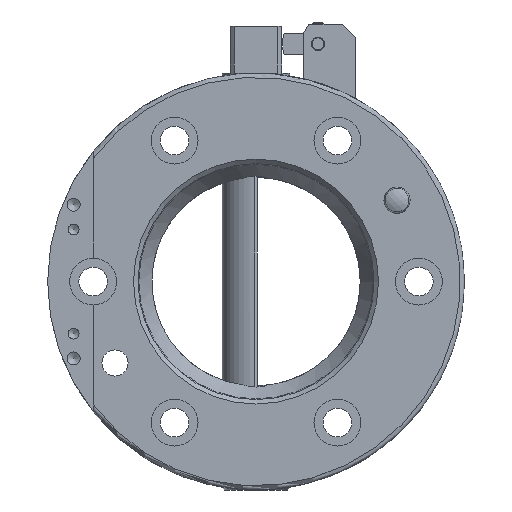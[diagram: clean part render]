
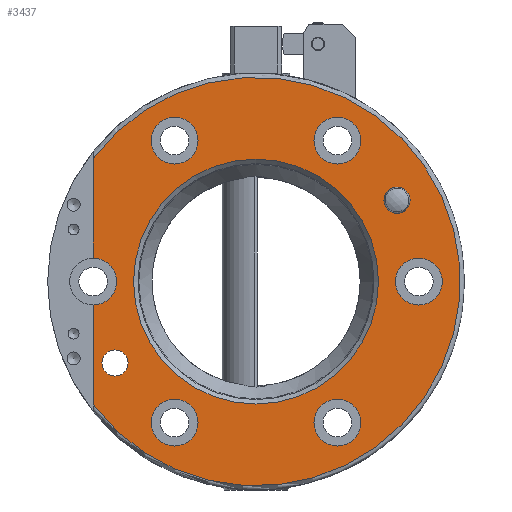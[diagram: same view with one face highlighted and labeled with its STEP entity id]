
A CAD part, left-side view. The second image highlights one B-rep face of the part: STEP entity #3437.
In plain terms, the highlighted planar face has unit normal (-1, 0, 0).
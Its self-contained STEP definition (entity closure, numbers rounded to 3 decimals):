
#69=FACE_BOUND('',#505,.T.);
#70=FACE_BOUND('',#506,.T.);
#71=FACE_BOUND('',#507,.T.);
#72=FACE_BOUND('',#508,.T.);
#73=FACE_BOUND('',#509,.T.);
#74=FACE_BOUND('',#510,.T.);
#75=FACE_BOUND('',#511,.T.);
#76=FACE_BOUND('',#512,.T.);
#163=PLANE('',#3668);
#316=FACE_OUTER_BOUND('',#504,.T.);
#504=EDGE_LOOP('',(#2280,#2281,#2282,#2283));
#505=EDGE_LOOP('',(#2284,#2285));
#506=EDGE_LOOP('',(#2286,#2287));
#507=EDGE_LOOP('',(#2288,#2289));
#508=EDGE_LOOP('',(#2290,#2291));
#509=EDGE_LOOP('',(#2292,#2293));
#510=EDGE_LOOP('',(#2294));
#511=EDGE_LOOP('',(#2295));
#512=EDGE_LOOP('',(#2296));
#737=LINE('',#5085,#956);
#743=LINE('',#5119,#962);
#956=VECTOR('',#4089,10.);
#962=VECTOR('',#4097,10.);
#1184=CIRCLE('',#3669,78.4);
#1185=CIRCLE('',#3670,9.);
#1186=CIRCLE('',#3671,9.);
#1187=CIRCLE('',#3672,9.);
#1188=CIRCLE('',#3673,9.);
#1189=CIRCLE('',#3674,9.);
#1190=CIRCLE('',#3675,9.);
#1191=CIRCLE('',#3676,9.);
#1192=CIRCLE('',#3677,9.);
#1193=CIRCLE('',#3678,9.);
#1194=CIRCLE('',#3679,9.);
#1195=CIRCLE('',#3680,9.);
#1196=CIRCLE('',#3681,5.);
#1197=CIRCLE('',#3682,5.);
#1198=CIRCLE('',#3683,47.);
#1395=VERTEX_POINT('',#5081);
#1397=VERTEX_POINT('',#5084);
#1401=VERTEX_POINT('',#5102);
#1404=VERTEX_POINT('',#5108);
#1405=VERTEX_POINT('',#5126);
#1406=VERTEX_POINT('',#5127);
#1407=VERTEX_POINT('',#5130);
#1408=VERTEX_POINT('',#5131);
#1409=VERTEX_POINT('',#5134);
#1410=VERTEX_POINT('',#5135);
#1411=VERTEX_POINT('',#5138);
#1412=VERTEX_POINT('',#5139);
#1413=VERTEX_POINT('',#5142);
#1414=VERTEX_POINT('',#5143);
#1415=VERTEX_POINT('',#5146);
#1416=VERTEX_POINT('',#5148);
#1417=VERTEX_POINT('',#5150);
#1748=EDGE_CURVE('',#1397,#1395,#737,.T.);
#1756=EDGE_CURVE('',#1401,#1404,#743,.T.);
#1759=EDGE_CURVE('',#1397,#1404,#1184,.T.);
#1760=EDGE_CURVE('',#1395,#1401,#1185,.T.);
#1761=EDGE_CURVE('',#1405,#1406,#1186,.T.);
#1762=EDGE_CURVE('',#1406,#1405,#1187,.T.);
#1763=EDGE_CURVE('',#1407,#1408,#1188,.T.);
#1764=EDGE_CURVE('',#1408,#1407,#1189,.T.);
#1765=EDGE_CURVE('',#1409,#1410,#1190,.T.);
#1766=EDGE_CURVE('',#1410,#1409,#1191,.T.);
#1767=EDGE_CURVE('',#1411,#1412,#1192,.T.);
#1768=EDGE_CURVE('',#1412,#1411,#1193,.T.);
#1769=EDGE_CURVE('',#1413,#1414,#1194,.T.);
#1770=EDGE_CURVE('',#1414,#1413,#1195,.T.);
#1771=EDGE_CURVE('',#1415,#1415,#1196,.T.);
#1772=EDGE_CURVE('',#1416,#1416,#1197,.T.);
#1773=EDGE_CURVE('',#1417,#1417,#1198,.T.);
#2280=ORIENTED_EDGE('',*,*,#1756,.T.);
#2281=ORIENTED_EDGE('',*,*,#1759,.F.);
#2282=ORIENTED_EDGE('',*,*,#1748,.T.);
#2283=ORIENTED_EDGE('',*,*,#1760,.T.);
#2284=ORIENTED_EDGE('',*,*,#1761,.T.);
#2285=ORIENTED_EDGE('',*,*,#1762,.T.);
#2286=ORIENTED_EDGE('',*,*,#1763,.T.);
#2287=ORIENTED_EDGE('',*,*,#1764,.T.);
#2288=ORIENTED_EDGE('',*,*,#1765,.T.);
#2289=ORIENTED_EDGE('',*,*,#1766,.T.);
#2290=ORIENTED_EDGE('',*,*,#1767,.T.);
#2291=ORIENTED_EDGE('',*,*,#1768,.T.);
#2292=ORIENTED_EDGE('',*,*,#1769,.T.);
#2293=ORIENTED_EDGE('',*,*,#1770,.T.);
#2294=ORIENTED_EDGE('',*,*,#1771,.T.);
#2295=ORIENTED_EDGE('',*,*,#1772,.T.);
#2296=ORIENTED_EDGE('',*,*,#1773,.F.);
#3437=ADVANCED_FACE('',(#316,#69,#70,#71,#72,#73,#74,#75,#76),#163,.T.);
#3668=AXIS2_PLACEMENT_3D('',#5123,#4104,#4105);
#3669=AXIS2_PLACEMENT_3D('',#5124,#4106,#4107);
#3670=AXIS2_PLACEMENT_3D('',#5125,#4108,#4109);
#3671=AXIS2_PLACEMENT_3D('',#5128,#4110,#4111);
#3672=AXIS2_PLACEMENT_3D('',#5129,#4112,#4113);
#3673=AXIS2_PLACEMENT_3D('',#5132,#4114,#4115);
#3674=AXIS2_PLACEMENT_3D('',#5133,#4116,#4117);
#3675=AXIS2_PLACEMENT_3D('',#5136,#4118,#4119);
#3676=AXIS2_PLACEMENT_3D('',#5137,#4120,#4121);
#3677=AXIS2_PLACEMENT_3D('',#5140,#4122,#4123);
#3678=AXIS2_PLACEMENT_3D('',#5141,#4124,#4125);
#3679=AXIS2_PLACEMENT_3D('',#5144,#4126,#4127);
#3680=AXIS2_PLACEMENT_3D('',#5145,#4128,#4129);
#3681=AXIS2_PLACEMENT_3D('',#5147,#4130,#4131);
#3682=AXIS2_PLACEMENT_3D('',#5149,#4132,#4133);
#3683=AXIS2_PLACEMENT_3D('',#5151,#4134,#4135);
#4089=DIRECTION('',(0.,0.,-1.));
#4097=DIRECTION('',(0.,0.,-1.));
#4104=DIRECTION('center_axis',(-1.,0.,0.));
#4105=DIRECTION('ref_axis',(0.,0.,1.));
#4106=DIRECTION('center_axis',(1.,0.,0.));
#4107=DIRECTION('ref_axis',(0.,-1.,0.));
#4108=DIRECTION('center_axis',(1.,0.,0.));
#4109=DIRECTION('ref_axis',(0.,0.,1.));
#4110=DIRECTION('center_axis',(1.,0.,0.));
#4111=DIRECTION('ref_axis',(0.,0.,1.));
#4112=DIRECTION('center_axis',(1.,0.,0.));
#4113=DIRECTION('ref_axis',(0.,0.,1.));
#4114=DIRECTION('center_axis',(1.,0.,0.));
#4115=DIRECTION('ref_axis',(0.,0.,1.));
#4116=DIRECTION('center_axis',(1.,0.,0.));
#4117=DIRECTION('ref_axis',(0.,0.,1.));
#4118=DIRECTION('center_axis',(1.,0.,0.));
#4119=DIRECTION('ref_axis',(0.,0.,1.));
#4120=DIRECTION('center_axis',(1.,0.,0.));
#4121=DIRECTION('ref_axis',(0.,0.,1.));
#4122=DIRECTION('center_axis',(1.,0.,0.));
#4123=DIRECTION('ref_axis',(0.,0.,1.));
#4124=DIRECTION('center_axis',(1.,0.,0.));
#4125=DIRECTION('ref_axis',(0.,0.,1.));
#4126=DIRECTION('center_axis',(1.,0.,0.));
#4127=DIRECTION('ref_axis',(0.,0.,1.));
#4128=DIRECTION('center_axis',(1.,0.,0.));
#4129=DIRECTION('ref_axis',(0.,0.,1.));
#4130=DIRECTION('center_axis',(1.,0.,0.));
#4131=DIRECTION('ref_axis',(0.,0.,1.));
#4132=DIRECTION('center_axis',(1.,0.,0.));
#4133=DIRECTION('ref_axis',(0.,0.,1.));
#4134=DIRECTION('center_axis',(-1.,0.,0.));
#4135=DIRECTION('ref_axis',(0.,-1.,0.));
#5081=CARTESIAN_POINT('',(0.,62.5,9.));
#5084=CARTESIAN_POINT('',(0.,62.5,47.332));
#5085=CARTESIAN_POINT('',(0.,62.5,-24.969));
#5102=CARTESIAN_POINT('',(0.,62.5,-9.));
#5108=CARTESIAN_POINT('',(0.,62.5,-47.332));
#5119=CARTESIAN_POINT('',(0.,62.5,-24.969));
#5123=CARTESIAN_POINT('Origin',(0.,62.5,0.));
#5124=CARTESIAN_POINT('Origin',(0.,0.,0.));
#5125=CARTESIAN_POINT('Origin',(0.,62.5,0.));
#5126=CARTESIAN_POINT('',(0.,31.25,63.127));
#5127=CARTESIAN_POINT('',(0.,31.25,45.127));
#5128=CARTESIAN_POINT('Origin',(0.,31.25,54.127));
#5129=CARTESIAN_POINT('Origin',(0.,31.25,54.127));
#5130=CARTESIAN_POINT('',(0.,-62.5,9.));
#5131=CARTESIAN_POINT('',(0.,-62.5,-9.));
#5132=CARTESIAN_POINT('Origin',(0.,-62.5,0.));
#5133=CARTESIAN_POINT('Origin',(0.,-62.5,0.));
#5134=CARTESIAN_POINT('',(0.,31.25,-45.127));
#5135=CARTESIAN_POINT('',(0.,31.25,-63.127));
#5136=CARTESIAN_POINT('Origin',(0.,31.25,-54.127));
#5137=CARTESIAN_POINT('Origin',(0.,31.25,-54.127));
#5138=CARTESIAN_POINT('',(0.,-31.25,-45.127));
#5139=CARTESIAN_POINT('',(0.,-31.25,-63.127));
#5140=CARTESIAN_POINT('Origin',(0.,-31.25,-54.127));
#5141=CARTESIAN_POINT('Origin',(0.,-31.25,-54.127));
#5142=CARTESIAN_POINT('',(0.,-31.25,63.127));
#5143=CARTESIAN_POINT('',(0.,-31.25,45.127));
#5144=CARTESIAN_POINT('Origin',(0.,-31.25,54.127));
#5145=CARTESIAN_POINT('Origin',(0.,-31.25,54.127));
#5146=CARTESIAN_POINT('',(0.,-54.127,26.25));
#5147=CARTESIAN_POINT('Origin',(0.,-54.127,31.25));
#5148=CARTESIAN_POINT('',(0.,54.127,-36.25));
#5149=CARTESIAN_POINT('Origin',(0.,54.127,-31.25));
#5150=CARTESIAN_POINT('',(0.,47.,0.));
#5151=CARTESIAN_POINT('Origin',(0.,0.,0.));
